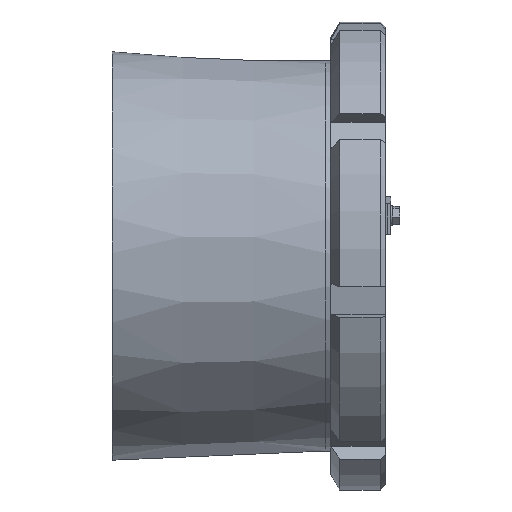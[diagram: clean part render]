
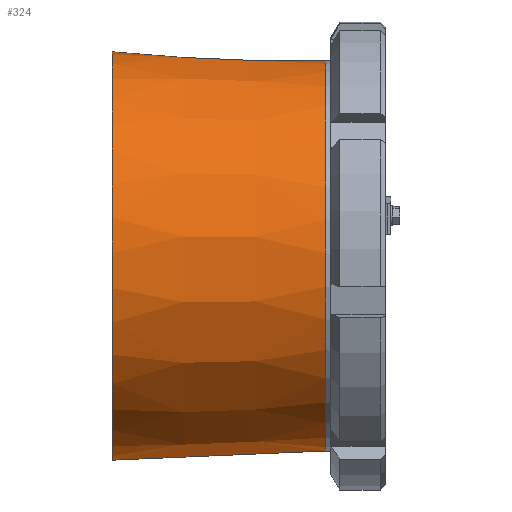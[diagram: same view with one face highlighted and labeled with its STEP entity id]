
A CAD part, top view. The second image highlights one B-rep face of the part: STEP entity #324.
In plain terms, the highlighted conical face has half-angle 2.444 degrees and reference radius 150 mm.
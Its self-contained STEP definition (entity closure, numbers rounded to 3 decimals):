
#324 = ADVANCED_FACE( '', ( #742 ), #743, .T. );
#742 = FACE_OUTER_BOUND( '', #1467, .T. );
#743 = CONICAL_SURFACE( '', #1468, 150., 0.043 );
#1467 = EDGE_LOOP( '', ( #2655, #2656, #2657, #2658 ) );
#1468 = AXIS2_PLACEMENT_3D( '', #2659, #2660, #2661 );
#2655 = ORIENTED_EDGE( '', *, *, #4917, .F. );
#2656 = ORIENTED_EDGE( '', *, *, #4951, .F. );
#2657 = ORIENTED_EDGE( '', *, *, #4947, .T. );
#2658 = ORIENTED_EDGE( '', *, *, #4952, .T. );
#2659 = CARTESIAN_POINT( '', ( -46., 0., 0. ) );
#2660 = DIRECTION( '', ( -1., 0., 0. ) );
#2661 = DIRECTION( '', ( 0., 0., 1. ) );
#4917 = EDGE_CURVE( '', #5892, #5894, #5895, .T. );
#4947 = EDGE_CURVE( '', #5942, #5940, #5943, .T. );
#4951 = EDGE_CURVE( '', #5942, #5892, #5948, .T. );
#4952 = EDGE_CURVE( '', #5940, #5894, #5949, .T. );
#5892 = VERTEX_POINT( '', #7467 );
#5894 = VERTEX_POINT( '', #7470 );
#5895 = B_SPLINE_CURVE_WITH_KNOTS( '', 3, ( #7471, #7472, #7473, #7474, #7475, #7476, #7477 ), .UNSPECIFIED., .F., .F., ( 4, 3, 4 ), ( 0.157, 0.299, 0.321 ), .UNSPECIFIED. );
#5940 = VERTEX_POINT( '', #7545 );
#5942 = VERTEX_POINT( '', #7548 );
#5943 = B_SPLINE_CURVE_WITH_KNOTS( '', 3, ( #7549, #7550, #7551, #7552, #7553, #7554, #7555 ), .UNSPECIFIED., .F., .F., ( 4, 3, 4 ), ( 0.157, 0.299, 0.321 ), .UNSPECIFIED. );
#5948 = CIRCLE( '', #7564, 150. );
#5949 = CIRCLE( '', #7565, 157. );
#7467 = CARTESIAN_POINT( '', ( -46., -149.947, 4. ) );
#7470 = CARTESIAN_POINT( '', ( -210., -156.949, 4. ) );
#7471 = CARTESIAN_POINT( '', ( -46., -149.947, 4. ) );
#7472 = CARTESIAN_POINT( '', ( -93.568, -151.978, 4. ) );
#7473 = CARTESIAN_POINT( '', ( -141.135, -154.009, 4. ) );
#7474 = CARTESIAN_POINT( '', ( -188.703, -156.04, 4. ) );
#7475 = CARTESIAN_POINT( '', ( -195.802, -156.343, 4. ) );
#7476 = CARTESIAN_POINT( '', ( -202.901, -156.646, 4. ) );
#7477 = CARTESIAN_POINT( '', ( -210., -156.949, 4. ) );
#7545 = CARTESIAN_POINT( '', ( -210., -156.949, -4. ) );
#7548 = CARTESIAN_POINT( '', ( -46., -149.947, -4. ) );
#7549 = CARTESIAN_POINT( '', ( -46., -149.947, -4. ) );
#7550 = CARTESIAN_POINT( '', ( -93.568, -151.978, -4. ) );
#7551 = CARTESIAN_POINT( '', ( -141.135, -154.009, -4. ) );
#7552 = CARTESIAN_POINT( '', ( -188.703, -156.04, -4. ) );
#7553 = CARTESIAN_POINT( '', ( -195.802, -156.343, -4. ) );
#7554 = CARTESIAN_POINT( '', ( -202.901, -156.646, -4. ) );
#7555 = CARTESIAN_POINT( '', ( -210., -156.949, -4. ) );
#7564 = AXIS2_PLACEMENT_3D( '', #9589, #9590, #9591 );
#7565 = AXIS2_PLACEMENT_3D( '', #9592, #9593, #9594 );
#9589 = CARTESIAN_POINT( '', ( -46., 0., 0. ) );
#9590 = DIRECTION( '', ( 1., 0., 0. ) );
#9591 = DIRECTION( '', ( 0., 0., -1. ) );
#9592 = CARTESIAN_POINT( '', ( -210., 0., 0. ) );
#9593 = DIRECTION( '', ( 1., 0., 0. ) );
#9594 = DIRECTION( '', ( 0., 0., -1. ) );
